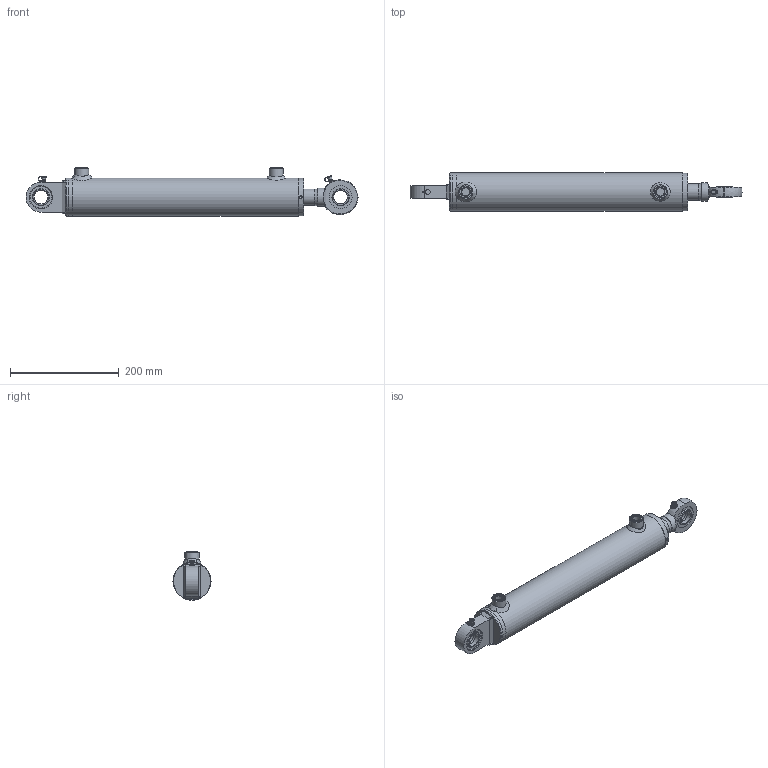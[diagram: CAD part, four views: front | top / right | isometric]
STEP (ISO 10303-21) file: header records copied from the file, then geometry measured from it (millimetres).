
FILE_DESCRIPTION( ( 'Unknown' ), '1' );
FILE_NAME( 'E:/LIBRERIA_3d/CILINDRI/HMB/HMB3300300.stp', 'Unknown', ( 'Unknown' ), ( 'Unknown' ), 'PSStep 17.0.49', 'Unknown', ' ' );
FILE_SCHEMA( ( 'AUTOMOTIVE_DESIGN { 1 0 10303 214 1 1 1 1 }' ) );
Length unit declared in the file: millimetre
Products named in the file (37): CT00060020; CSTSF025N0; An00006001; CSTS025N_CORPO; CSAI002042; CSAI002042-oa5; CG07006030; STL3500300-oa4; Saldatura d'angolo 1-oa2; FTM3500300-oa3; CBSC220600; CSTSF025C0; tsc25c_CORPO; AN00006001; HM03300300; Saldatura con preparazione 1-oa0; Saldatura d'angolo 1-oa1; CF00060070; CBS0600000; CDA0002015; APG0600000; SBL3030300; CSTS025N00; CGE0250000; APGR013000; CSTS025C00; cge0250000; Assem1; Saldatura d'angolo 1-oa6; Saldatura d'angolo 2-oa7
Assembly tree (30 placements, depth 4):
  Saldatura d'angolo 1-oa2
  Saldatura d'angolo 1-oa2
  Saldatura d'angolo 1-oa1
  Saldatura d'angolo 1-oa1
  Assem1
    HM03300300
      Saldatura con preparazione 1-oa0
      Saldatura con preparazione 1-oa0
      CF00060070
      CBS0600000
      CDA0002015
      APG0600000  x2
      SBL3030300
      CG07006030
        CG07006030
      CT00060020
        CT00060020
      STL3500300-oa4
        FTM3500300-oa3
        CBSC220600
    CSTS025C00
      cge0250000
      APGR013000
      CSTSF025C0
        tsc25c_CORPO
        AN00006001
    CSTS025N00
      CGE0250000
      APGR013000
      CSTSF025N0
        An00006001
        CSTS025N_CORPO
        CSAI002042
        CSAI002042-oa5
Bounding box: 609.5 x 70 x 89 mm (x, y, z)
Volume: 1116981 mm3; surface area: 341247.9 mm2
Topology: 30 solids, 30 shells, 406 faces, 851 edges, 530 vertices
Faces by surface type: plane 190, cylinder 91, torus 46, cone 44, bspline 28, sphere 7
Full cylindrical faces by diameter (mm): 2 x4, 4 x1, 4.25 x1, 5 x8, 6 x4, 7 x2, 8 x2, 9 x2, 14.95 x2, 16 x2, 16.6 x2, 19.4 x1, 20 x5, 22 x2, 24.5 x1, 25 x4, 26 x2, 30 x5, 32 x1, 33 x1, 33.5 x1, 38.6 x1, 40 x3, 42 x8, 44 x1, 55 x1, 55.39 x2, 58.65 x2, 59.9 x1, 60 x1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
Entity records: 16302 total; most frequent: CARTESIAN_POINT 5900, DIRECTION 1564, ORIENTED_EDGE 1106, AXIS2_PLACEMENT_3D 663, EDGE_LOOP 640, EDGE_CURVE 553, FACE_OUTER_BOUND 514, VERTEX_POINT 441
